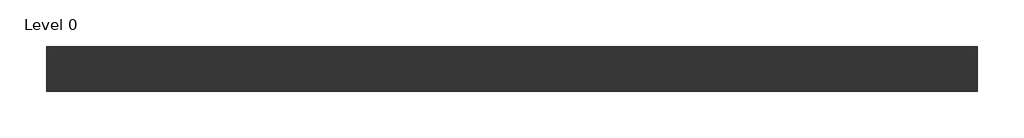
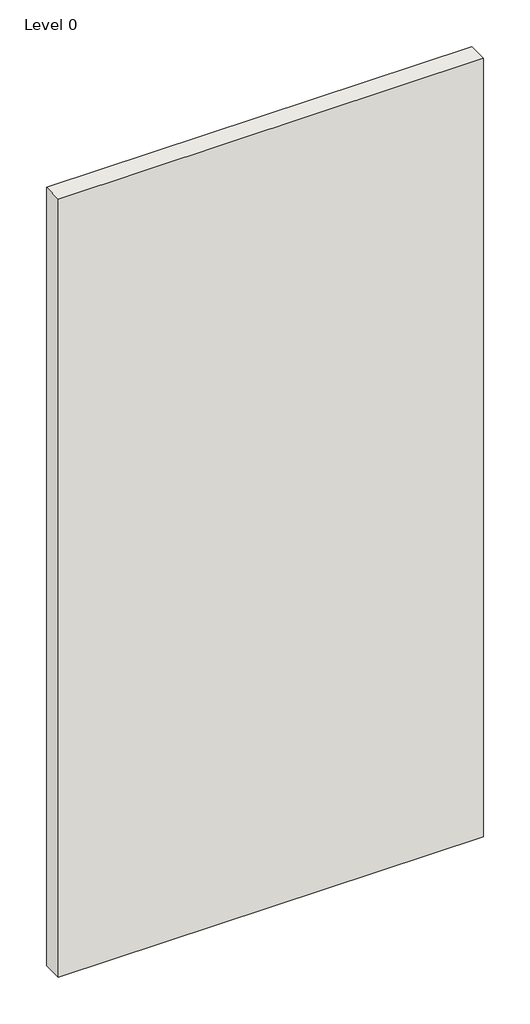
# One storey: 1 wall.
"""IFC4 building model written with IfcOpenShell, lengths in millimetres."""

from ifc_helpers import new_model, si_unit, origin, origin_with_axes, place, context, project, spatial, polyline, outline, extrude, element, save

model = new_model("IFC4")

# Units and contexts
model_context = context("Model", 3, world=origin())
ifc_project = project(units=[si_unit("LENGTHUNIT", "METRE", prefix="MILLI")], contexts=[model_context])

# Site, building, storey
site = spatial("IfcSite", under=ifc_project)
building = spatial("IfcBuilding", under=site)
storey = spatial("IfcBuildingStorey", under=building, Name="Level 0", Elevation=0.0)

# Wall
placement = place(None, origin())
element("IfcWall", 1, ObjectType="A206A291 - GypWall CLASSIC", at=placement, inside=storey, context=model_context, shape_type="SweptSolid", body=[
    extrude(outline(polyline([(2116.0807354, 521.7205641), (-883.9192646, 521.7205641), (-883.9192646, 665.7205641), (2116.0807354, 665.7205641), (2116.0807354, 521.7205641)])), origin_with_axes(), (0.0, 0.0, 1.0), 5800.0),
])

save(model, "model.ifc")
